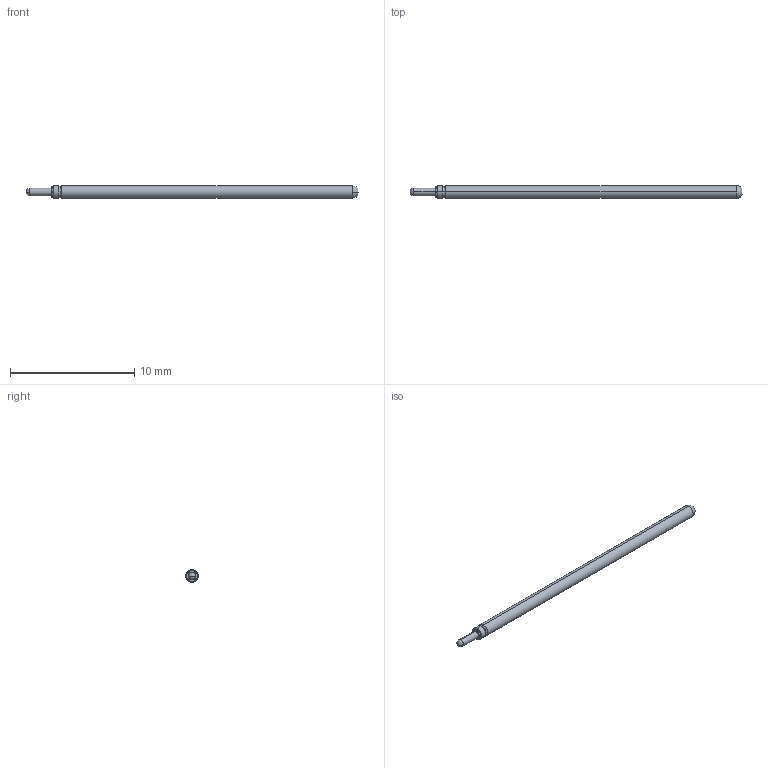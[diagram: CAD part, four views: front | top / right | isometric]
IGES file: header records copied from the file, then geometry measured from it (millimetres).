
Start section: SolidWorks IGES file using analytic representation for surfaces
Global section: file name: Z:\probe solid model mockups\Solidworks models\Parts\LFRE-1J FULL.IGS; native system: SolidWorks 2016; preprocessor: SolidWorks 2016; author: mlee; date: 180927.163447; units: inch
Bounding box: 26.67 x 1.02 x 1.02 mm (x, y, z)
Surface area: 83.1 mm2 (no closed solid volume)
Topology: 0 solids, 0 shells, 20 faces, 128 edges, 126 vertices
Faces by surface type: revolution 14, bspline 6
